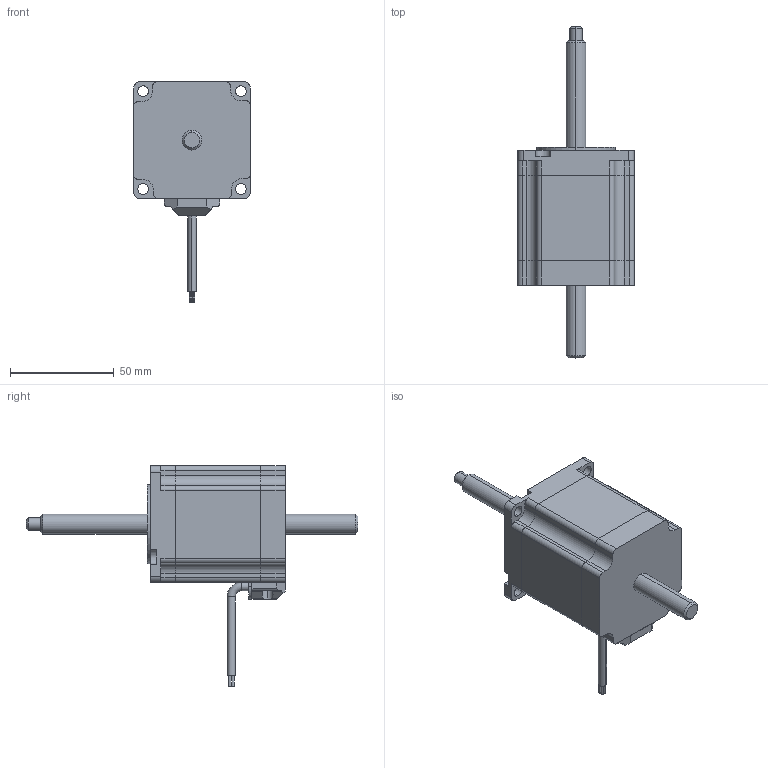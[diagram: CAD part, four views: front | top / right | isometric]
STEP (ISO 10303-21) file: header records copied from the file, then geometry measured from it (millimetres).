
FILE_DESCRIPTION (( 'STEP AP203' ), '1' );
FILE_NAME ('57N265-12.7-4-4-160-003.STEP', '2019-12-23T03:20:35', ( '' ), ( '' ), 'SwSTEP 2.0', 'SolidWorks 2017', '' );
FILE_SCHEMA (( 'CONFIG_CONTROL_DESIGN' ));
Length unit declared in the file: millimetre
Products named in the file (1): 57N265-12.7-4-4-160-003
Bounding box: 56.2 x 160 x 106.2 mm (x, y, z)
Volume: 195513.9 mm3; surface area: 28788.9 mm2
Topology: 2 solids, 2 shells, 202 faces, 545 edges, 359 vertices
Faces by surface type: cylinder 101, plane 93, cone 6, torus 2
Entity records: 6529 total; most frequent: CARTESIAN_POINT 1197, DIRECTION 1134, ORIENTED_EDGE 1090, EDGE_CURVE 545, AXIS2_PLACEMENT_3D 404, VERTEX_POINT 359, LINE 326, VECTOR 326
